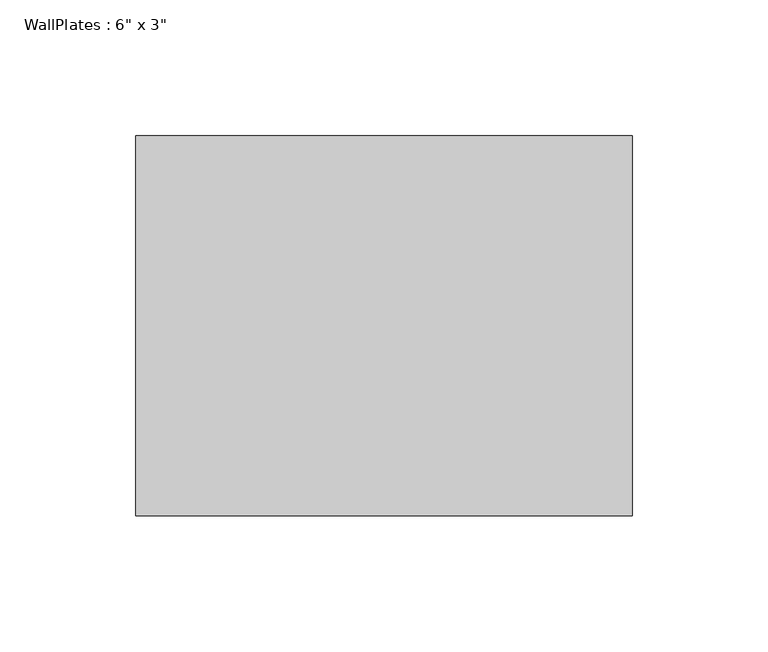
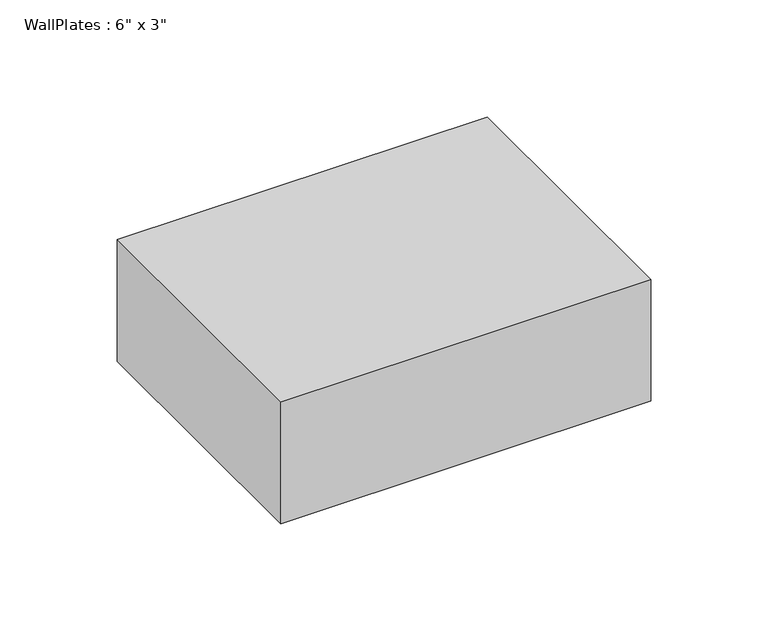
"""IFC4 building model written with IfcOpenShell, lengths in millimetres: beam geometry."""

import ifcopenshell
import ifcopenshell.guid

model = None  # the IFC model being written
_history = None  # IfcOwnerHistory: only IFC2X3 demands one
_inside = {}  # id of a spatial element -> (the spatial element, [elements in it])
_under = {}  # id of a project, library or spatial element -> (it, [spatial elements below it])
_declared = {}  # id of a project -> (the project, [libraries it declares])
_typed = {}  # id of a type object -> (the type object, [elements of that type])
_made_of = {}  # id of a material, layer set ... -> (it, [elements and type objects made of it])


def new_model(schema):
    """Start an empty IFC model of exactly this schema.

    Asked for "IFC4X3", IfcOpenShell would pick the latest addendum, in which some entities
    have other attributes; the version numbers below select the first issue.
    IFC2X3 requires an IfcOwnerHistory on every rooted entity: one is made here for all.
    """
    global model, _history
    if schema == "IFC4X3":
        model = ifcopenshell.file(schema_version=(4, 3, 0, 0))
    else:
        model = ifcopenshell.file(schema=schema)
    _inside.clear()
    _under.clear()
    _declared.clear()
    _typed.clear()
    _made_of.clear()
    _history = None
    if model.schema == "IFC2X3":
        org = make("IfcOrganization", Name="unknown")
        user = make(
            "IfcPersonAndOrganization",
            ThePerson=make("IfcPerson", FamilyName="unknown"),
            TheOrganization=org,
        )
        app = make(
            "IfcApplication",
            ApplicationDeveloper=org,
            Version="unknown",
            ApplicationFullName="unknown",
            ApplicationIdentifier="unknown",
        )
        _history = make(
            "IfcOwnerHistory",
            OwningUser=user,
            OwningApplication=app,
            ChangeAction="ADDED",
            CreationDate=0,
        )
    return model


def make(cls, **values):
    """One entity of the class cls with the attributes given. An attribute that is None is left unset."""
    return model.create_entity(
        cls, **{name: value for name, value in values.items() if value is not None}
    )


def rooted(cls, **values):
    """An entity with a GlobalId (a new one), such as an element, a storey or a relation."""
    return make(cls, GlobalId=ifcopenshell.guid.new(), OwnerHistory=_history, **values)


def si_unit(unit_type, name, prefix=None):
    """IfcSIUnit, for example si_unit("LENGTHUNIT", "METRE", prefix="MILLI")."""
    return make("IfcSIUnit", UnitType=unit_type, Prefix=prefix, Name=name)


def assignment(units):
    """IfcUnitAssignment: the units of a project."""
    return None if units is None else make("IfcUnitAssignment", Units=units)


def point(xyz):
    """IfcCartesianPoint."""
    return None if xyz is None else make("IfcCartesianPoint", Coordinates=xyz)


def direction(xyz):
    """IfcDirection."""
    return None if xyz is None else make("IfcDirection", DirectionRatios=xyz)


def frame(location, z_axis=None, x_axis=None):
    """IfcAxis2Placement3D, a coordinate frame: its origin and axes. An axis left out is left unset."""
    return make(
        "IfcAxis2Placement3D",
        Location=point(location),
        Axis=direction(z_axis),
        RefDirection=direction(x_axis),
    )


def origin():
    """The frame at (0, 0, 0) with its axes left unset."""
    return frame((0.0, 0.0, 0.0))


def place(relative_to, where):
    """IfcLocalPlacement: puts the frame where relative to a parent placement (None: the world)."""
    return make(
        "IfcLocalPlacement", PlacementRelTo=relative_to, RelativePlacement=where
    )


def context(
    kind, dimensions, precision=None, world=None, true_north=None, identifier=None
):
    """IfcGeometricRepresentationContext, for example the 3D "Model" context."""
    return make(
        "IfcGeometricRepresentationContext",
        ContextIdentifier=identifier,
        ContextType=kind,
        CoordinateSpaceDimension=dimensions,
        Precision=precision,
        WorldCoordinateSystem=world,
        TrueNorth=true_north,
    )


def project(units=None, contexts=None):
    """IfcProject with its units and contexts."""
    return rooted(
        "IfcProject",
        Name="project",
        RepresentationContexts=contexts,
        UnitsInContext=assignment(units),
    )


def spatial(cls, under=None, at=None, **own):
    """A site, building, storey or space (cls), placed at a placement, below another one or the project."""
    s = rooted(cls, ObjectPlacement=at, **own)
    if under is not None:
        _under.setdefault(under.id(), (under, []))[1].append(s)
    return s


def polyline(points):
    """IfcPolyline through the points."""
    return make("IfcPolyline", Points=[point(p) for p in points])


def outline(outer, holes=None, kind="AREA"):
    """IfcArbitraryClosedProfileDef: a profile drawn as a closed curve; with holes, ...WithVoids."""
    if holes is None:
        return make("IfcArbitraryClosedProfileDef", ProfileType=kind, OuterCurve=outer)
    return make(
        "IfcArbitraryProfileDefWithVoids",
        ProfileType=kind,
        OuterCurve=outer,
        InnerCurves=holes,
    )


def extrude(swept, where, along, depth):
    """IfcExtrudedAreaSolid: the profile swept, set in the frame where, extruded along a direction by depth."""
    return make(
        "IfcExtrudedAreaSolid",
        SweptArea=swept,
        Position=where,
        ExtrudedDirection=direction(along),
        Depth=depth,
    )


def shape(context_of_items, identifier, shape_type, items):
    """IfcShapeRepresentation: the items that make up one representation, for example the "Body"."""
    return make(
        "IfcShapeRepresentation",
        ContextOfItems=context_of_items,
        RepresentationIdentifier=identifier,
        RepresentationType=shape_type,
        Items=items,
    )


def source(mapping_origin, context_of_items, identifier, shape_type, items):
    """IfcRepresentationMap: a shape defined once, which mapped items show again and again."""
    return make(
        "IfcRepresentationMap",
        MappingOrigin=mapping_origin,
        MappedRepresentation=shape(context_of_items, identifier, shape_type, items),
    )


def transform(
    local_origin,
    x_axis=None,
    y_axis=None,
    z_axis=None,
    scale=None,
    scale2=None,
    scale3=None,
    uniform=True,
):
    """IfcCartesianTransformationOperator3D, or its non-uniform kind. x_axis, y_axis, z_axis: its Axis1, 2, 3."""
    if uniform:
        return make(
            "IfcCartesianTransformationOperator3D",
            Axis1=direction(x_axis),
            Axis2=direction(y_axis),
            LocalOrigin=point(local_origin),
            Scale=scale,
            Axis3=direction(z_axis),
        )
    return make(
        "IfcCartesianTransformationOperator3DnonUniform",
        Axis1=direction(x_axis),
        Axis2=direction(y_axis),
        LocalOrigin=point(local_origin),
        Scale=scale,
        Axis3=direction(z_axis),
        Scale2=scale2,
        Scale3=scale3,
    )


def mapped(mapping_source, mapping_target):
    """IfcMappedItem: shows the shape of a source again, moved by a transform."""
    return make(
        "IfcMappedItem", MappingSource=mapping_source, MappingTarget=mapping_target
    )


def made_of(thing, what):
    """Note that an element or type object is made of a material, layer set ...; save() writes the relation."""
    if what is not None:
        _made_of.setdefault(what.id(), (what, []))[1].append(thing)
    return thing


def element(
    cls,
    number,
    at=None,
    inside=None,
    cuts=None,
    type_object=None,
    material=None,
    context=None,
    identifier="Body",
    shape_type=None,
    held_by="IfcProductDefinitionShape",
    body=None,
    shapes=None,
    **own,
):
    """One element of the class cls, such as IfcWall. Its Tag is "e" and its number.

    at: its placement. inside: the storey or other place that contains it. cuts: it is an
    opening in that element (IfcRelVoidsElement). A single representation is given by context,
    identifier, shape_type and body (its items); several are given by shapes. held_by: the class
    of the entity that holds the representations. save() writes the other relations.
    """
    e = rooted(cls, Tag="e%d" % number, ObjectPlacement=at, **own)
    if body is not None:
        shapes = [shape(context, identifier, shape_type, body)]
    if shapes is not None:
        e.Representation = make(held_by, Representations=shapes)
    if inside is not None:
        _inside.setdefault(inside.id(), (inside, []))[1].append(e)
    if cuts is not None:
        rooted(
            "IfcRelVoidsElement", RelatingBuildingElement=cuts, RelatedOpeningElement=e
        )
    if type_object is not None:
        _typed.setdefault(type_object.id(), (type_object, []))[1].append(e)
    return made_of(e, material)


def aggregate(whole, parts):
    """IfcRelAggregates: a whole, such as a stair, and the parts it consists of."""
    return rooted("IfcRelAggregates", RelatingObject=whole, RelatedObjects=parts)


def save(model, path):
    """Write the relations noted so far, then the file.

    IfcRelAggregates (storeys below a building ...), IfcRelContainedInSpatialStructure (elements
    in a storey), IfcRelDefinesByType, IfcRelAssociatesMaterial and IfcRelDeclares: one each for
    every whole, place, type object, material and project.
    """
    for whole, parts in _under.values():
        aggregate(whole, parts)
    for where, things in _inside.values():
        rooted(
            "IfcRelContainedInSpatialStructure",
            RelatedElements=things,
            RelatingStructure=where,
        )
    for kind, things in _typed.values():
        rooted("IfcRelDefinesByType", RelatedObjects=things, RelatingType=kind)
    for what, things in _made_of.values():
        rooted("IfcRelAssociatesMaterial", RelatedObjects=things, RelatingMaterial=what)
    for by, libraries in _declared.values():
        rooted("IfcRelDeclares", RelatingContext=by, RelatedDefinitions=libraries)
    model.write(path)


def beam_1f5e18a4(model_context):
    return source(origin(), model_context, "Body", "SweptSolid", [
        extrude(outline(polyline([(-91.2746039, -69.85), (-91.2746039, 69.85), (91.2746039, 69.85), (91.2746039, -69.85), (-91.2746039, -69.85)])), frame((0.0, 0.0, -31.75), z_axis=(0.0, 0.0, 1.0), x_axis=(1.0, 0.0, 0.0)), (0.0, 0.0, 1.0), 63.5),
    ])


if __name__ == "__main__":
    model = new_model("IFC4")
    model_context = context("Model", 3, world=origin())
    ifc_project = project(units=[si_unit("LENGTHUNIT", "METRE", prefix="MILLI")], contexts=[model_context])
    site = spatial("IfcSite", under=ifc_project)
    building = spatial("IfcBuilding", under=site)
    placement = place(None, origin())
    beam_shape = beam_1f5e18a4(model_context)
    element("IfcBeam", 1, ObjectType="WallPlates : 6\" x 3\"", at=placement, inside=building, context=model_context, shape_type="MappedRepresentation", body=[
        mapped(beam_shape, transform((0.0, 0.0, 0.0), x_axis=(1.0, 0.0, 0.0), y_axis=(0.0, 1.0, 0.0), z_axis=(0.0, 0.0, 1.0))),
    ])
    save(model, "model.ifc")
